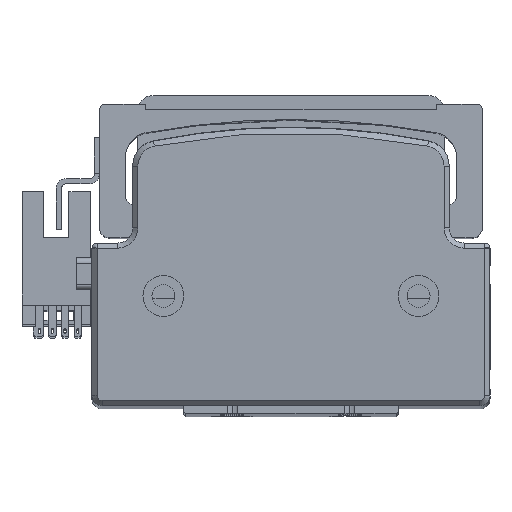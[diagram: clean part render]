
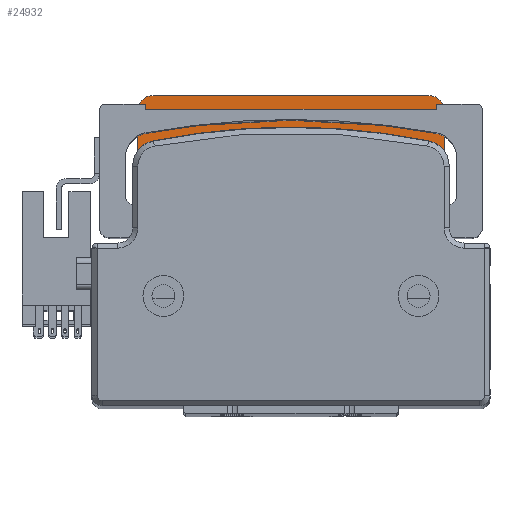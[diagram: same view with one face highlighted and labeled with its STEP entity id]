
A CAD part, top view. The second image highlights one B-rep face of the part: STEP entity #24932.
In plain terms, the highlighted planar face has unit normal (0, 0, 1) as drawn and (0, 0, -1) by its records, which use the part's own axes.
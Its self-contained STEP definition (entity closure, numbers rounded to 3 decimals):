
#442 = AXIS2_PLACEMENT_3D ( 'NONE', #33162, #12112, #36727 ) ;
#535 = VERTEX_POINT ( 'NONE', #33087 ) ;
#780 = EDGE_CURVE ( 'NONE', #29187, #5091, #36598, .T. ) ;
#902 = ORIENTED_EDGE ( 'NONE', *, *, #32748, .T. ) ;
#1326 = ORIENTED_EDGE ( 'NONE', *, *, #10468, .F. ) ;
#1596 = DIRECTION ( 'NONE',  ( -1., 0., 0. ) ) ;
#1626 = VERTEX_POINT ( 'NONE', #42172 ) ;
#2378 = VECTOR ( 'NONE', #14792, 1000. ) ;
#2384 = DIRECTION ( 'NONE',  ( -1., 0., 0. ) ) ;
#2563 = ORIENTED_EDGE ( 'NONE', *, *, #38216, .T. ) ;
#2792 = ORIENTED_EDGE ( 'NONE', *, *, #8936, .T. ) ;
#3083 = DIRECTION ( 'NONE',  ( 0., 0., -1. ) ) ;
#3194 = EDGE_CURVE ( 'NONE', #44211, #5091, #8606, .T. ) ;
#3372 = CARTESIAN_POINT ( 'NONE',  ( -39.764, 17., 44. ) ) ;
#3801 = EDGE_LOOP ( 'NONE', ( #38310, #21379, #27471, #16247, #2792, #43111, #2563, #41127, #902, #9786, #12694, #9934 ) ) ;
#3918 = DIRECTION ( 'NONE',  ( 0., 0., 1. ) ) ;
#4292 = CARTESIAN_POINT ( 'NONE',  ( 19., 0., 44. ) ) ;
#5091 = VERTEX_POINT ( 'NONE', #23402 ) ;
#5143 = VERTEX_POINT ( 'NONE', #6030 ) ;
#5164 = CIRCLE ( 'NONE', #15519, 1.65 ) ;
#5387 = FACE_BOUND ( 'NONE', #9454, .T. ) ;
#6030 = CARTESIAN_POINT ( 'NONE',  ( 27., 17., 44. ) ) ;
#6218 = VERTEX_POINT ( 'NONE', #39775 ) ;
#6505 = FACE_OUTER_BOUND ( 'NONE', #3801, .T. ) ;
#6807 = DIRECTION ( 'NONE',  ( 1., 0., 0. ) ) ;
#7286 = DIRECTION ( 'NONE',  ( 0., 0., -1. ) ) ;
#8077 = CARTESIAN_POINT ( 'NONE',  ( 19., 30., 44. ) ) ;
#8483 = LINE ( 'NONE', #40727, #36619 ) ;
#8606 = LINE ( 'NONE', #38630, #35637 ) ;
#8936 = EDGE_CURVE ( 'NONE', #44211, #26675, #18638, .T. ) ;
#9201 = DIRECTION ( 'NONE',  ( 0., 1., 0. ) ) ;
#9454 = EDGE_LOOP ( 'NONE', ( #44770, #1326 ) ) ;
#9480 = AXIS2_PLACEMENT_3D ( 'NONE', #25109, #3918, #28627 ) ;
#9486 = CIRCLE ( 'NONE', #442, 1.65 ) ;
#9488 = CIRCLE ( 'NONE', #19040, 19. ) ;
#9786 = ORIENTED_EDGE ( 'NONE', *, *, #15968, .F. ) ;
#9934 = ORIENTED_EDGE ( 'NONE', *, *, #13445, .T. ) ;
#10468 = EDGE_CURVE ( 'NONE', #17768, #34146, #9486, .T. ) ;
#10794 = AXIS2_PLACEMENT_3D ( 'NONE', #34966, #13966, #38503 ) ;
#11282 = VERTEX_POINT ( 'NONE', #42308 ) ;
#11790 = DIRECTION ( 'NONE',  ( 0., 0., -1. ) ) ;
#11912 = CIRCLE ( 'NONE', #14387, 3. ) ;
#12078 = CARTESIAN_POINT ( 'NONE',  ( 0., 0., 44. ) ) ;
#12112 = DIRECTION ( 'NONE',  ( 0., 0., -1. ) ) ;
#12339 = DIRECTION ( 'NONE',  ( 0., 1., 0. ) ) ;
#12347 = VERTEX_POINT ( 'NONE', #39730 ) ;
#12425 = DIRECTION ( 'NONE',  ( 0., 0., -1. ) ) ;
#12694 = ORIENTED_EDGE ( 'NONE', *, *, #25423, .T. ) ;
#13445 = EDGE_CURVE ( 'NONE', #35385, #24943, #9488, .T. ) ;
#13936 = DIRECTION ( 'NONE',  ( 0., -1., 0. ) ) ;
#13966 = DIRECTION ( 'NONE',  ( 0., 0., -1. ) ) ;
#14387 = AXIS2_PLACEMENT_3D ( 'NONE', #24286, #3083, #27812 ) ;
#14792 = DIRECTION ( 'NONE',  ( 1., 0., 0. ) ) ;
#15519 = AXIS2_PLACEMENT_3D ( 'NONE', #32826, #11790, #36412 ) ;
#15697 = DIRECTION ( 'NONE',  ( -1., 0., 0. ) ) ;
#15787 = PLANE ( 'NONE',  #31792 ) ;
#15946 = ORIENTED_EDGE ( 'NONE', *, *, #25592, .F. ) ;
#15968 = EDGE_CURVE ( 'NONE', #12347, #5143, #30549, .T. ) ;
#16012 = FACE_BOUND ( 'NONE', #42133, .T. ) ;
#16247 = ORIENTED_EDGE ( 'NONE', *, *, #3194, .F. ) ;
#17768 = VERTEX_POINT ( 'NONE', #45257 ) ;
#18314 = CIRCLE ( 'NONE', #42282, 1.65 ) ;
#18524 = VERTEX_POINT ( 'NONE', #19328 ) ;
#18638 = CIRCLE ( 'NONE', #10794, 3. ) ;
#18639 = EDGE_CURVE ( 'NONE', #6218, #11282, #8483, .T. ) ;
#18830 = DIRECTION ( 'NONE',  ( 0., -1., 0. ) ) ;
#19040 = AXIS2_PLACEMENT_3D ( 'NONE', #12078, #36701, #15697 ) ;
#19328 = CARTESIAN_POINT ( 'NONE',  ( 27., 30., 44. ) ) ;
#19335 = CARTESIAN_POINT ( 'NONE',  ( 19., -30., 44. ) ) ;
#21379 = ORIENTED_EDGE ( 'NONE', *, *, #40280, .F. ) ;
#22907 = LINE ( 'NONE', #3372, #32197 ) ;
#23402 = CARTESIAN_POINT ( 'NONE',  ( -30., 14., 44. ) ) ;
#23595 = DIRECTION ( 'NONE',  ( 0., 0., 1. ) ) ;
#24286 = CARTESIAN_POINT ( 'NONE',  ( 27., 27., 44. ) ) ;
#24646 = CARTESIAN_POINT ( 'NONE',  ( -27., 30., 44. ) ) ;
#24932 = ADVANCED_FACE ( 'NONE', ( #6505, #5387, #16012 ), #15787, .T. ) ;
#24943 = VERTEX_POINT ( 'NONE', #40271 ) ;
#25109 = CARTESIAN_POINT ( 'NONE',  ( 27., 14., 44. ) ) ;
#25219 = VECTOR ( 'NONE', #18830, 1000. ) ;
#25357 = CARTESIAN_POINT ( 'NONE',  ( -39.764, 17., 44. ) ) ;
#25423 = EDGE_CURVE ( 'NONE', #12347, #35385, #26301, .T. ) ;
#25592 = EDGE_CURVE ( 'NONE', #1626, #535, #36210, .T. ) ;
#26174 = DIRECTION ( 'NONE',  ( 0., 0., -1. ) ) ;
#26301 = LINE ( 'NONE', #8077, #25219 ) ;
#26672 = VERTEX_POINT ( 'NONE', #42002 ) ;
#26675 = VERTEX_POINT ( 'NONE', #24646 ) ;
#27471 = ORIENTED_EDGE ( 'NONE', *, *, #780, .T. ) ;
#27812 = DIRECTION ( 'NONE',  ( 1., 0., 0. ) ) ;
#28425 = CARTESIAN_POINT ( 'NONE',  ( 24.749, 24.749, 44. ) ) ;
#28627 = DIRECTION ( 'NONE',  ( -1., 0., 0. ) ) ;
#29187 = VERTEX_POINT ( 'NONE', #43423 ) ;
#29836 = CARTESIAN_POINT ( 'NONE',  ( -19., 30., 44. ) ) ;
#30077 = ORIENTED_EDGE ( 'NONE', *, *, #41594, .F. ) ;
#30549 = LINE ( 'NONE', #25357, #2378 ) ;
#31283 = CARTESIAN_POINT ( 'NONE',  ( -30., 27., 44. ) ) ;
#31792 = AXIS2_PLACEMENT_3D ( 'NONE', #19335, #26174, #1596 ) ;
#31922 = DIRECTION ( 'NONE',  ( 1., 0., 0. ) ) ;
#32197 = VECTOR ( 'NONE', #6807, 1000. ) ;
#32748 = EDGE_CURVE ( 'NONE', #6218, #5143, #34508, .T. ) ;
#32826 = CARTESIAN_POINT ( 'NONE',  ( -24.749, 24.749, 44. ) ) ;
#33087 = CARTESIAN_POINT ( 'NONE',  ( 26.399, 24.749, 44. ) ) ;
#33162 = CARTESIAN_POINT ( 'NONE',  ( -24.749, 24.749, 44. ) ) ;
#33450 = VECTOR ( 'NONE', #12339, 1000. ) ;
#33456 = CARTESIAN_POINT ( 'NONE',  ( 24.749, 24.749, 44. ) ) ;
#34146 = VERTEX_POINT ( 'NONE', #38204 ) ;
#34508 = CIRCLE ( 'NONE', #9480, 3. ) ;
#34564 = LINE ( 'NONE', #29836, #33450 ) ;
#34966 = CARTESIAN_POINT ( 'NONE',  ( -27., 27., 44. ) ) ;
#35108 = CARTESIAN_POINT ( 'NONE',  ( 19., 30., 44. ) ) ;
#35232 = VECTOR ( 'NONE', #37734, 1000. ) ;
#35385 = VERTEX_POINT ( 'NONE', #4292 ) ;
#35637 = VECTOR ( 'NONE', #13936, 1000. ) ;
#35878 = EDGE_CURVE ( 'NONE', #26675, #18524, #44545, .T. ) ;
#36112 = AXIS2_PLACEMENT_3D ( 'NONE', #44619, #23595, #2384 ) ;
#36210 = CIRCLE ( 'NONE', #40960, 1.65 ) ;
#36412 = DIRECTION ( 'NONE',  ( 1., 0., 0. ) ) ;
#36598 = CIRCLE ( 'NONE', #36112, 3. ) ;
#36619 = VECTOR ( 'NONE', #9201, 1000. ) ;
#36701 = DIRECTION ( 'NONE',  ( 0., 0., 1. ) ) ;
#36727 = DIRECTION ( 'NONE',  ( 1., 0., 0. ) ) ;
#37034 = DIRECTION ( 'NONE',  ( 1., 0., 0. ) ) ;
#37734 = DIRECTION ( 'NONE',  ( 1., 0., 0. ) ) ;
#38204 = CARTESIAN_POINT ( 'NONE',  ( -23.099, 24.749, 44. ) ) ;
#38216 = EDGE_CURVE ( 'NONE', #18524, #11282, #11912, .T. ) ;
#38310 = ORIENTED_EDGE ( 'NONE', *, *, #43441, .T. ) ;
#38503 = DIRECTION ( 'NONE',  ( 1., 0., 0. ) ) ;
#38630 = CARTESIAN_POINT ( 'NONE',  ( -30., -30., 44. ) ) ;
#39730 = CARTESIAN_POINT ( 'NONE',  ( 19., 17., 44. ) ) ;
#39775 = CARTESIAN_POINT ( 'NONE',  ( 30., 14., 44. ) ) ;
#40271 = CARTESIAN_POINT ( 'NONE',  ( -19., 0., 44. ) ) ;
#40280 = EDGE_CURVE ( 'NONE', #29187, #26672, #22907, .T. ) ;
#40727 = CARTESIAN_POINT ( 'NONE',  ( 30., -30., 44. ) ) ;
#40960 = AXIS2_PLACEMENT_3D ( 'NONE', #33456, #12425, #37034 ) ;
#41127 = ORIENTED_EDGE ( 'NONE', *, *, #18639, .F. ) ;
#41594 = EDGE_CURVE ( 'NONE', #535, #1626, #18314, .T. ) ;
#42002 = CARTESIAN_POINT ( 'NONE',  ( -19., 17., 44. ) ) ;
#42133 = EDGE_LOOP ( 'NONE', ( #30077, #15946 ) ) ;
#42172 = CARTESIAN_POINT ( 'NONE',  ( 23.099, 24.749, 44. ) ) ;
#42282 = AXIS2_PLACEMENT_3D ( 'NONE', #28425, #7286, #31922 ) ;
#42308 = CARTESIAN_POINT ( 'NONE',  ( 30., 27., 44. ) ) ;
#43111 = ORIENTED_EDGE ( 'NONE', *, *, #35878, .T. ) ;
#43423 = CARTESIAN_POINT ( 'NONE',  ( -27., 17., 44. ) ) ;
#43441 = EDGE_CURVE ( 'NONE', #24943, #26672, #34564, .T. ) ;
#44211 = VERTEX_POINT ( 'NONE', #31283 ) ;
#44545 = LINE ( 'NONE', #35108, #35232 ) ;
#44619 = CARTESIAN_POINT ( 'NONE',  ( -27., 14., 44. ) ) ;
#44770 = ORIENTED_EDGE ( 'NONE', *, *, #44988, .F. ) ;
#44988 = EDGE_CURVE ( 'NONE', #34146, #17768, #5164, .T. ) ;
#45257 = CARTESIAN_POINT ( 'NONE',  ( -26.399, 24.749, 44. ) ) ;
